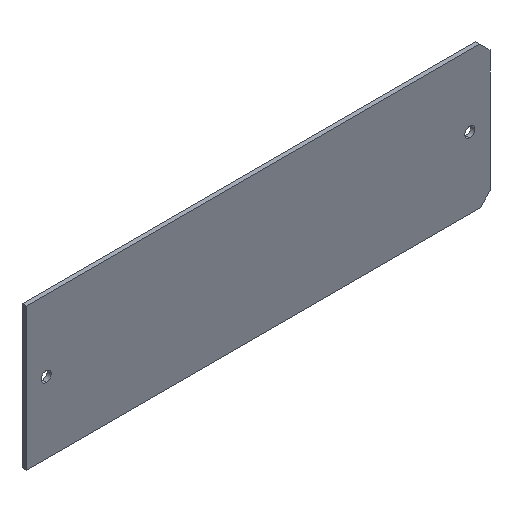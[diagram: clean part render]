
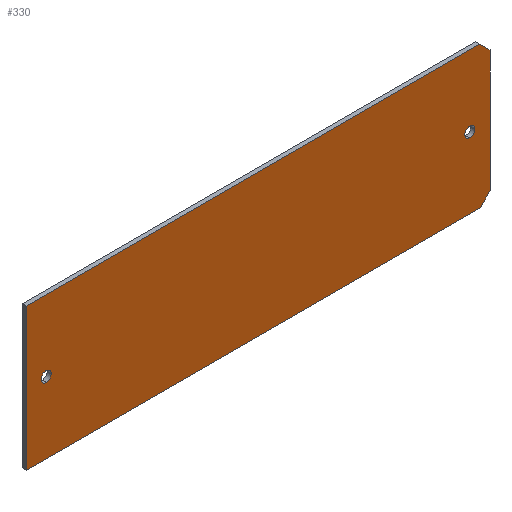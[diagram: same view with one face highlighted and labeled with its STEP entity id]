
A CAD part, isometric view. The second image highlights one B-rep face of the part: STEP entity #330.
In plain terms, the highlighted planar face has unit normal (0, -1, 0).
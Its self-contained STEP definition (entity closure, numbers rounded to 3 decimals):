
#4 = DIRECTION ( 'NONE',  ( 0., 1., 0. ) ) ;
#12 = EDGE_LOOP ( 'NONE', ( #35, #355 ) ) ;
#14 = CIRCLE ( 'NONE', #74, 1. ) ;
#15 = CARTESIAN_POINT ( 'NONE',  ( -46., 0., -14.1 ) ) ;
#17 = ORIENTED_EDGE ( 'NONE', *, *, #24, .F. ) ;
#18 = DIRECTION ( 'NONE',  ( 0., 1., 0. ) ) ;
#24 = EDGE_CURVE ( 'NONE', #233, #153, #237, .T. ) ;
#31 = CARTESIAN_POINT ( 'NONE',  ( 44., 0., 14.1 ) ) ;
#35 = ORIENTED_EDGE ( 'NONE', *, *, #96, .T. ) ;
#37 = AXIS2_PLACEMENT_3D ( 'NONE', #79, #111, #199 ) ;
#40 = FACE_OUTER_BOUND ( 'NONE', #163, .T. ) ;
#43 = VERTEX_POINT ( 'NONE', #342 ) ;
#45 = VERTEX_POINT ( 'NONE', #115 ) ;
#48 = VERTEX_POINT ( 'NONE', #144 ) ;
#49 = CARTESIAN_POINT ( 'NONE',  ( -46., 0., -14.1 ) ) ;
#51 = VECTOR ( 'NONE', #181, 1000. ) ;
#53 = VERTEX_POINT ( 'NONE', #88 ) ;
#55 = DIRECTION ( 'NONE',  ( -0.707, 0., 0.707 ) ) ;
#58 = CARTESIAN_POINT ( 'NONE',  ( 46., 0., 12.1 ) ) ;
#60 = VERTEX_POINT ( 'NONE', #214 ) ;
#61 = DIRECTION ( 'NONE',  ( 0., 0., 1. ) ) ;
#63 = EDGE_CURVE ( 'NONE', #45, #60, #208, .T. ) ;
#66 = FACE_BOUND ( 'NONE', #12, .T. ) ;
#71 = DIRECTION ( 'NONE',  ( 0.707, 0., 0.707 ) ) ;
#72 = ORIENTED_EDGE ( 'NONE', *, *, #192, .F. ) ;
#74 = AXIS2_PLACEMENT_3D ( 'NONE', #246, #318, #61 ) ;
#75 = ORIENTED_EDGE ( 'NONE', *, *, #369, .T. ) ;
#79 = CARTESIAN_POINT ( 'NONE',  ( 42., 0., 0. ) ) ;
#87 = CIRCLE ( 'NONE', #37, 1. ) ;
#88 = CARTESIAN_POINT ( 'NONE',  ( 42., 0., 1. ) ) ;
#92 = VERTEX_POINT ( 'NONE', #222 ) ;
#96 = EDGE_CURVE ( 'NONE', #245, #43, #14, .T. ) ;
#102 = LINE ( 'NONE', #131, #180 ) ;
#104 = VECTOR ( 'NONE', #333, 1000. ) ;
#111 = DIRECTION ( 'NONE',  ( 0., 1., 0. ) ) ;
#115 = CARTESIAN_POINT ( 'NONE',  ( 44., 0., -14.1 ) ) ;
#125 = VECTOR ( 'NONE', #55, 1000. ) ;
#131 = CARTESIAN_POINT ( 'NONE',  ( 44., 0., -14.1 ) ) ;
#135 = CARTESIAN_POINT ( 'NONE',  ( 46., 0., 12.1 ) ) ;
#136 = ORIENTED_EDGE ( 'NONE', *, *, #316, .T. ) ;
#140 = AXIS2_PLACEMENT_3D ( 'NONE', #143, #18, #268 ) ;
#141 = VECTOR ( 'NONE', #212, 1000. ) ;
#143 = CARTESIAN_POINT ( 'NONE',  ( -42., 0., 0. ) ) ;
#144 = CARTESIAN_POINT ( 'NONE',  ( 42., 0., -1. ) ) ;
#153 = VERTEX_POINT ( 'NONE', #352 ) ;
#155 = CARTESIAN_POINT ( 'NONE',  ( -46., 0., 14.1 ) ) ;
#163 = EDGE_LOOP ( 'NONE', ( #17, #75, #72, #247, #218, #197 ) ) ;
#168 = PLANE ( 'NONE',  #321 ) ;
#177 = CARTESIAN_POINT ( 'NONE',  ( -42., 0., 1. ) ) ;
#180 = VECTOR ( 'NONE', #71, 1000. ) ;
#181 = DIRECTION ( 'NONE',  ( 0., 0., 1. ) ) ;
#190 = VERTEX_POINT ( 'NONE', #31 ) ;
#191 = LINE ( 'NONE', #49, #51 ) ;
#192 = EDGE_CURVE ( 'NONE', #92, #190, #343, .T. ) ;
#197 = ORIENTED_EDGE ( 'NONE', *, *, #261, .T. ) ;
#199 = DIRECTION ( 'NONE',  ( 0., 0., 1. ) ) ;
#208 = LINE ( 'NONE', #15, #104 ) ;
#212 = DIRECTION ( 'NONE',  ( 0., 0., -1. ) ) ;
#214 = CARTESIAN_POINT ( 'NONE',  ( -46., 0., -14.1 ) ) ;
#218 = ORIENTED_EDGE ( 'NONE', *, *, #63, .F. ) ;
#222 = CARTESIAN_POINT ( 'NONE',  ( -46., 0., 14.1 ) ) ;
#228 = CARTESIAN_POINT ( 'NONE',  ( 42., 0., 0. ) ) ;
#233 = VERTEX_POINT ( 'NONE', #135 ) ;
#237 = LINE ( 'NONE', #402, #141 ) ;
#245 = VERTEX_POINT ( 'NONE', #177 ) ;
#246 = CARTESIAN_POINT ( 'NONE',  ( -42., 0., 0. ) ) ;
#247 = ORIENTED_EDGE ( 'NONE', *, *, #390, .F. ) ;
#253 = CIRCLE ( 'NONE', #140, 1. ) ;
#254 = DIRECTION ( 'NONE',  ( 1., 0., 0. ) ) ;
#259 = CARTESIAN_POINT ( 'NONE',  ( 0., 0., 0. ) ) ;
#261 = EDGE_CURVE ( 'NONE', #45, #153, #102, .T. ) ;
#268 = DIRECTION ( 'NONE',  ( 0., 0., 1. ) ) ;
#278 = EDGE_CURVE ( 'NONE', #43, #245, #253, .T. ) ;
#280 = LINE ( 'NONE', #58, #125 ) ;
#284 = EDGE_CURVE ( 'NONE', #53, #48, #372, .T. ) ;
#311 = ORIENTED_EDGE ( 'NONE', *, *, #284, .T. ) ;
#316 = EDGE_CURVE ( 'NONE', #48, #53, #87, .T. ) ;
#318 = DIRECTION ( 'NONE',  ( 0., 1., 0. ) ) ;
#321 = AXIS2_PLACEMENT_3D ( 'NONE', #259, #4, #388 ) ;
#324 = FACE_BOUND ( 'NONE', #395, .T. ) ;
#326 = DIRECTION ( 'NONE',  ( 0., 1., 0. ) ) ;
#330 = ADVANCED_FACE ( 'NONE', ( #66, #324, #40 ), #168, .F. ) ;
#333 = DIRECTION ( 'NONE',  ( -1., 0., 0. ) ) ;
#342 = CARTESIAN_POINT ( 'NONE',  ( -42., 0., -1. ) ) ;
#343 = LINE ( 'NONE', #155, #414 ) ;
#352 = CARTESIAN_POINT ( 'NONE',  ( 46., 0., -12.1 ) ) ;
#355 = ORIENTED_EDGE ( 'NONE', *, *, #278, .T. ) ;
#358 = AXIS2_PLACEMENT_3D ( 'NONE', #228, #326, #397 ) ;
#369 = EDGE_CURVE ( 'NONE', #233, #190, #280, .T. ) ;
#372 = CIRCLE ( 'NONE', #358, 1. ) ;
#388 = DIRECTION ( 'NONE',  ( 0., 0., 1. ) ) ;
#390 = EDGE_CURVE ( 'NONE', #60, #92, #191, .T. ) ;
#395 = EDGE_LOOP ( 'NONE', ( #311, #136 ) ) ;
#397 = DIRECTION ( 'NONE',  ( 0., 0., 1. ) ) ;
#402 = CARTESIAN_POINT ( 'NONE',  ( 46., 0., -14.1 ) ) ;
#414 = VECTOR ( 'NONE', #254, 1000. ) ;
